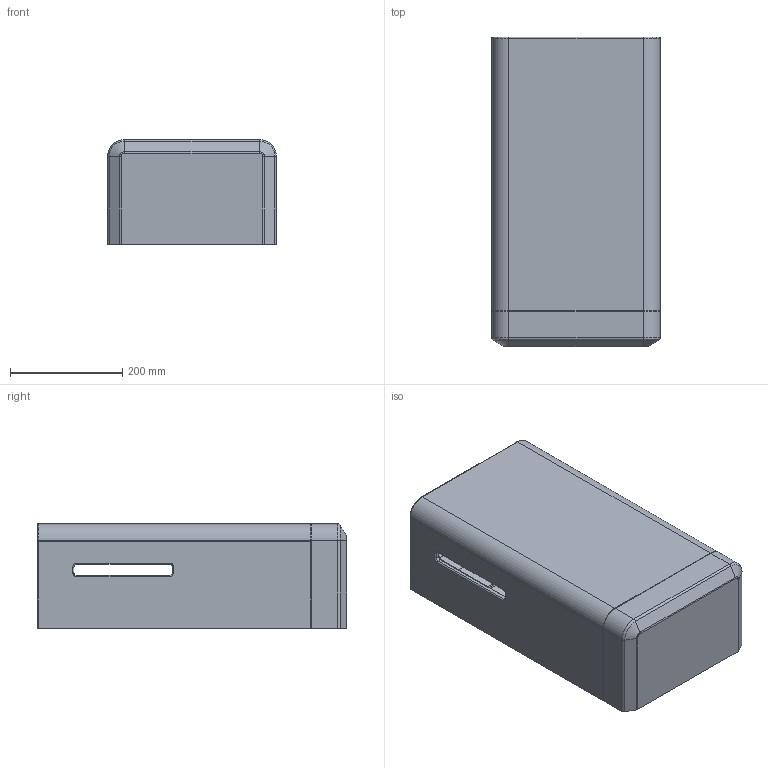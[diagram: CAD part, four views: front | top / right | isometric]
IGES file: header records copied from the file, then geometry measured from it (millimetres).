
Start section:  PTC IGES file: tyc420.igs
Global section: file name: tyc420.igs; native system: Creo Parametric by Parametric Technology Corporation; preprocessor: 2012130; author: Uporabnik; organization: Unknown; date: 20130206.094901; units: millimetre
Bounding box: 300 x 550 x 186 mm (x, y, z)
Volume: 23756025.9 mm3; surface area: 799627.5 mm2
Topology: 1 solids, 1 shells, 190 faces, 471 edges, 269 vertices
Faces by surface type: revolution 145, bspline 45
